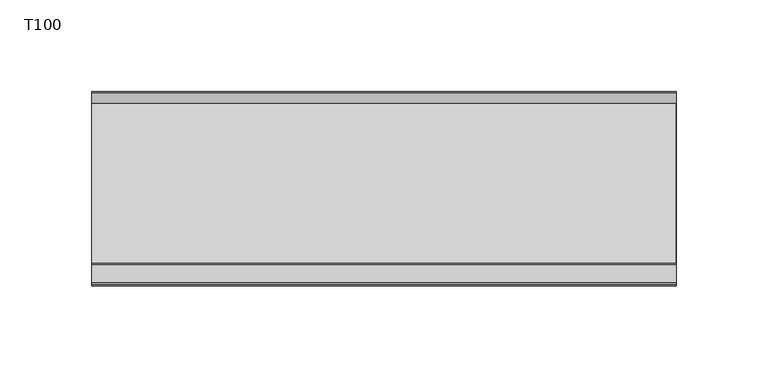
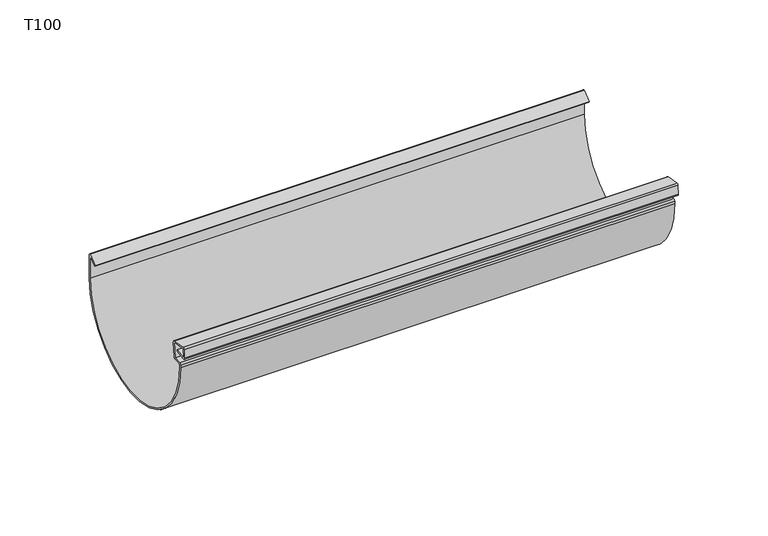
"""IFC4 building model written with IfcOpenShell, lengths in millimetres: proxy geometry, GROVIK_Gutter_Straight : T100."""

from ifc_helpers import new_model, si_unit, point, frame, frame_2d, origin, place, context, project, spatial, polyline, circle_curve, trimmed, segment, composite_curve, outline, extrude, source, transform, mapped, element, save


def t100_ef93b6f5(model_context):
    return source(origin(), model_context, "Body", "SweptSolid", [
        extrude(outline(composite_curve([segment(polyline([(95.6785725, 12.9222473), (94.8220658, 3.1323305), (104.7816977, 1.3761787), (105.2998033, 7.2981526), (98.3413035, 6.0711814), (98.1850202, 6.9575084), (105.0151773, 8.1618494)]), True, "CONTINUOUS"), segment(trimmed(circle_curve(frame_2d((105.1888255, 7.1770416)), 1.0), [point((105.0151773, 8.1618494))], [point((106.1850202, 7.0898858))], False, "CARTESIAN"), True, "CONTINUOUS"), segment(polyline([(106.1850202, 7.0898858), (105.6885136, 1.4147891)]), True, "CONTINUOUS"), segment(trimmed(circle_curve(frame_2d((104.6923189, 1.5019449)), 1.0), [point((105.6885136, 1.4147891))], [point((104.6051631, 0.5057503))], False, "CARTESIAN"), True, "CONTINUOUS"), segment(polyline([(104.6051631, 0.5057503), (94.7570856, 2.242232)]), True, "CONTINUOUS"), segment(trimmed(circle_curve(frame_2d((94.9307338, 3.2270398)), 1.0), [point((94.7570856, 2.242232))], [point((93.9345391, 3.3141955))], False, "CARTESIAN"), True, "CONTINUOUS"), segment(polyline([(93.9345391, 3.3141955), (94.7746841, 12.9170968)]), True, "CONTINUOUS"), segment(trimmed(circle_curve(frame_2d((95.683723, 12.9170968)), 0.909039), [point((94.7746841, 12.9170968))], [point((95.683723, 13.8261358))], False, "CARTESIAN"), True, "CONTINUOUS"), segment(polyline([(95.683723, 13.8261358), (100.9, 14.2825008), (100.9, 16.3578028)]), True, "CONTINUOUS"), segment(trimmed(circle_curve(frame_2d((50.9, 16.3578028)), 50.0), [point((100.9, 16.3578028))], [point((0.9, 16.3578028))], True, "CARTESIAN"), True, "CONTINUOUS"), segment(polyline([(0.9, 16.3578028), (0.9, 1.3578028), (5.6494755, 5.3430859), (6.2279844, 4.6536459), (0.8213938, 0.1169778)]), True, "CONTINUOUS"), segment(trimmed(circle_curve(frame_2d((0.5, 0.5)), 0.5), [point((0.8213938, 0.1169778))], [point((0.0, 0.5))], False, "CARTESIAN"), True, "CONTINUOUS"), segment(polyline([(0.0, 0.5), (0.0, 16.3578028)]), True, "CONTINUOUS"), segment(trimmed(circle_curve(frame_2d((50.9, 16.3578028)), 50.9), [point((0.0, 16.3578028))], [point((101.8, 16.3578028))], False, "CARTESIAN"), True, "CONTINUOUS"), segment(polyline([(101.8, 16.3578028), (101.8, 14.3741339)]), True, "CONTINUOUS"), segment(trimmed(circle_curve(frame_2d((100.8, 14.3741339)), 1.0), [point((101.8, 14.3741339))], [point((100.8871557, 13.3779392))], False, "CARTESIAN"), True, "CONTINUOUS"), segment(polyline([(100.8871557, 13.3779392), (95.6785725, 12.9222473)]), True, "CONTINUOUS")], self_intersect=False)), frame((45.0, 0.0, 0.0), z_axis=(0.9999994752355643, 0.0, 0.0010244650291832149), x_axis=(0.0, -1.0, 0.0)), (0.0, 0.0, 1.0), 318.829725),
    ])


if __name__ == "__main__":
    model = new_model("IFC4")
    model_context = context("Model", 3, world=origin())
    ifc_project = project(units=[si_unit("LENGTHUNIT", "METRE", prefix="MILLI")], contexts=[model_context])
    site = spatial("IfcSite", under=ifc_project)
    building = spatial("IfcBuilding", under=site)
    placement = place(None, origin())
    t100_shape = t100_ef93b6f5(model_context)
    element("IfcBuildingElementProxy", 1, Name="GROVIK_Gutter_Straight : T100", ObjectType="GROVIK_Gutter_Straight : T100", at=placement, inside=building, context=model_context, shape_type="MappedRepresentation", body=[
        mapped(t100_shape, transform((0.0, 0.0, 0.0), x_axis=(1.0, 0.0, 0.0), y_axis=(0.0, 1.0, 0.0), z_axis=(0.0, 0.0, 1.0))),
    ])
    save(model, "model.ifc")
